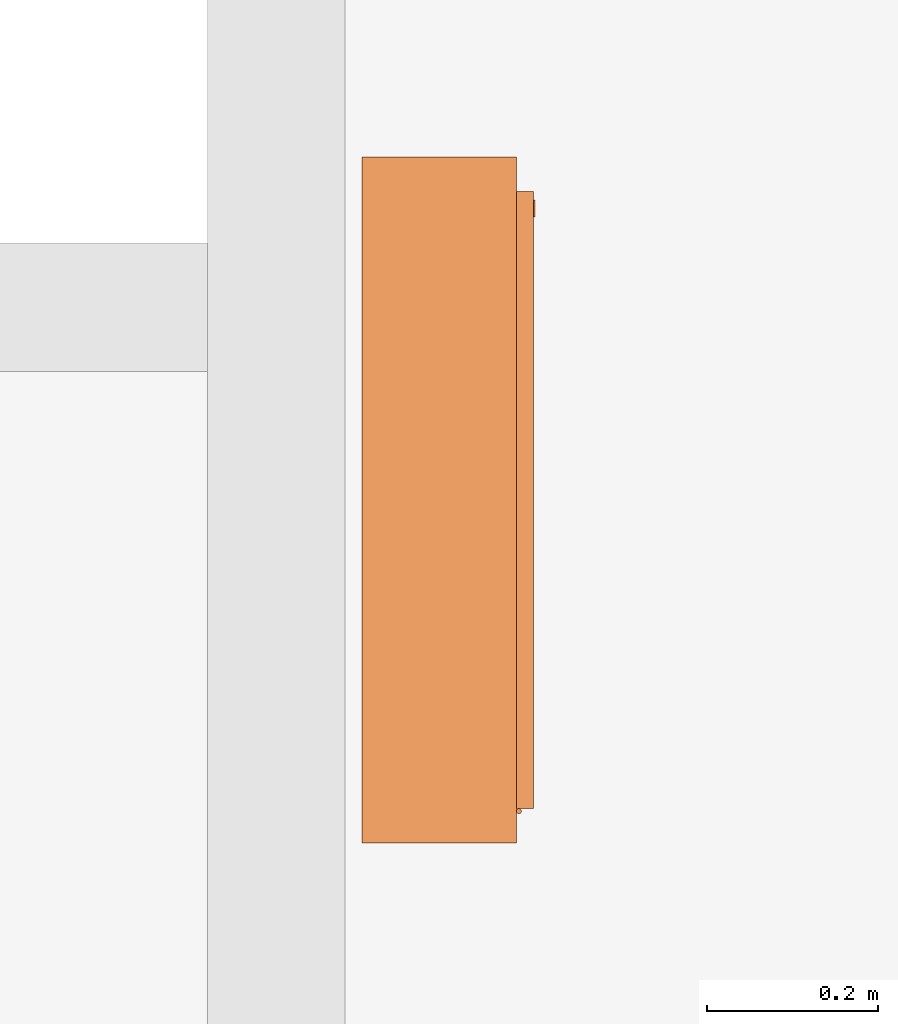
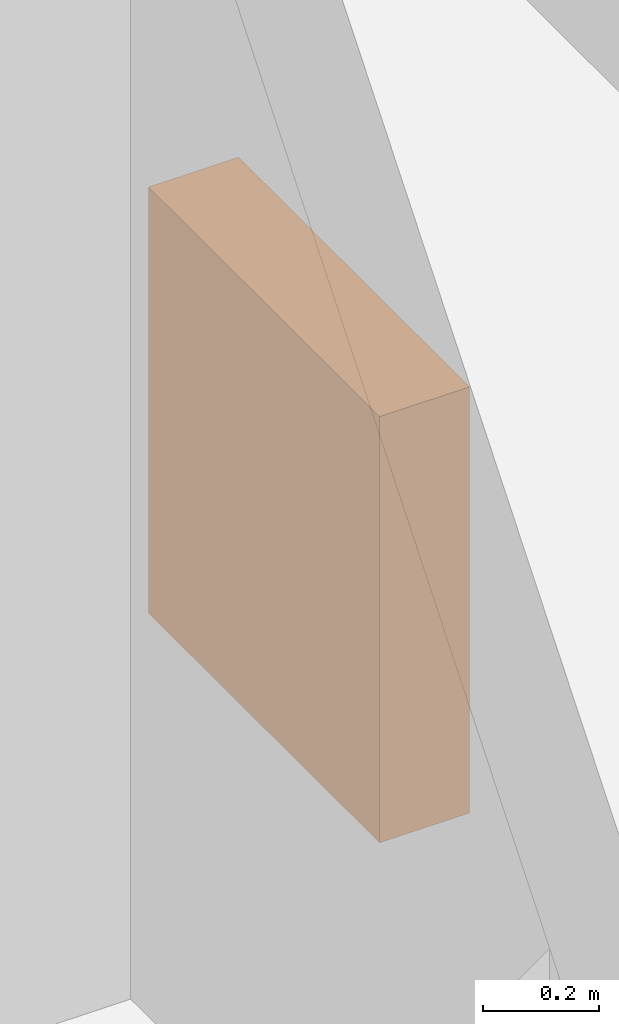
# One storey, part 14 of 61: 1 proxy.
"""IFC2X3 building model written with IfcOpenShell, lengths in millimetres."""

from ifc_helpers import new_model, entity, si_unit, converted_unit, derived_unit, money_unit, direction, frame, origin_with_axes, place, context, subcontext, project, spatial, faceted_brep, source, transform, mapped, type_object, element, save


model = new_model("IFC2X3")

# Units and contexts
model_context = context("Model", 3, precision=0.01, world=origin_with_axes(), true_north=direction((0.34421633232, 0.938890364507)))
body_context = subcontext(model_context, "Body", "Model", "MODEL_VIEW")
ifc_project = project(units=[si_unit("LENGTHUNIT", "METRE", prefix="MILLI"), si_unit("AREAUNIT", "SQUARE_METRE"), si_unit("VOLUMEUNIT", "CUBIC_METRE"), converted_unit("PLANEANGLEUNIT", "DEGREE", entity("IfcPlaneAngleMeasure", 0.0174532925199), si_unit("PLANEANGLEUNIT", "RADIAN"), dimensions=[0, 0, 0, 0, 0, 0, 0]), si_unit("SOLIDANGLEUNIT", "STERADIAN"), money_unit("USD"), converted_unit("TIMEUNIT", "Year", entity("IfcTimeMeasure", 31556926.0), si_unit("TIMEUNIT", "SECOND"), dimensions=[0, 0, 1, 0, 0, 0, 0]), si_unit("MASSUNIT", "GRAM", prefix="KILO"), si_unit("THERMODYNAMICTEMPERATUREUNIT", "DEGREE_CELSIUS"), si_unit("LUMINOUSINTENSITYUNIT", "LUMEN"), si_unit("ENERGYUNIT", "JOULE", prefix="MEGA"), derived_unit("THERMALCONDUCTANCEUNIT", [(si_unit("POWERUNIT", "WATT"), 1), (si_unit("LENGTHUNIT", "METRE"), -1), (si_unit("THERMODYNAMICTEMPERATUREUNIT", "KELVIN"), -1)]), derived_unit("SPECIFICHEATCAPACITYUNIT", [(si_unit("ENERGYUNIT", "JOULE"), 1), (si_unit("MASSUNIT", "GRAM", prefix="KILO"), -1), (si_unit("THERMODYNAMICTEMPERATUREUNIT", "KELVIN"), -1)]), derived_unit("MASSDENSITYUNIT", [(si_unit("MASSUNIT", "GRAM", prefix="KILO"), 1), (si_unit("VOLUMEUNIT", "CUBIC_METRE"), -1)])], contexts=[model_context])

# Site, building, storey
site_placement = place(None, origin_with_axes())
site = spatial("IfcSite", under=ifc_project, at=site_placement, Name="USTRONIE MORSKIE", CompositionType="ELEMENT")
building_placement = place(site_placement, origin_with_axes())
building = spatial("IfcBuilding", under=site, at=building_placement, Name="Budynek", CompositionType="ELEMENT")
storey_placement = place(building_placement, frame((0.0, 0.0, 13000.0), z_axis=(0.0, 0.0, 1.0), x_axis=(1.0, 0.0, 0.0)))
storey = spatial("IfcBuildingStorey", under=building, at=storey_placement, Name="PIĘTRO 4", CompositionType="ELEMENT", Elevation=13000.0)

# Proxy
building_element_proxy_type = type_object("IfcBuildingElementProxyType", Name="Skrzynka P-Poż 23", PredefinedType="NOTDEFINED")
shared_shape = source(origin_with_axes(), body_context, "Body", "Brep", [
    faceted_brep([(0.0, 40.0, 0.0), (800.0, 40.0, 0.0), (800.0, 20.0, 0.0), (0.0, 20.0, 0.0), (0.0, 40.0, 900.0), (800.0, 40.0, 900.0), (60.0, 40.0, 60.0), (740.0, 40.0, 60.0), (740.0, 40.0, 840.0), (60.0, 40.0, 840.0), (800.0, 20.0, 900.0), (0.0, 20.0, 900.0), (60.0, 20.0, 60.0), (60.0, 20.0, 840.0), (740.0, 20.0, 840.0), (740.0, 20.0, 60.0)], [[[0, 1, 2, 3]], [[0, 4, 5, 1], [6, 7, 8, 9]], [[1, 5, 10, 2]], [[3, 2, 10, 11], [12, 13, 14, 15]], [[4, 0, 3, 11]], [[5, 4, 11, 10]], [[7, 6, 12, 15]], [[8, 7, 15, 14]], [[9, 8, 14, 13]], [[6, 9, 13, 12]]]),
    faceted_brep([(40.0, 20.0, 40.0), (760.0, 20.0, 40.0), (760.0, 0.0, 40.0), (40.0, 0.0, 40.0), (40.0, 20.0, 860.0), (760.0, 20.0, 860.0), (80.0, 20.0, 80.0), (720.0, 20.0, 80.0), (720.0, 20.0, 820.0), (80.0, 20.0, 820.0), (760.0, 0.0, 860.0), (40.0, 0.0, 860.0), (80.0, 0.0, 80.0), (80.0, 0.0, 820.0), (720.0, 0.0, 820.0), (720.0, 0.0, 80.0)], [[[0, 1, 2, 3]], [[0, 4, 5, 1], [6, 7, 8, 9]], [[1, 5, 10, 2]], [[3, 2, 10, 11], [12, 13, 14, 15]], [[4, 0, 3, 11]], [[5, 4, 11, 10]], [[7, 6, 12, 15]], [[8, 7, 15, 14]], [[9, 8, 14, 13]], [[6, 9, 13, 12]]]),
    faceted_brep([(0.0, 180.0, 0.0), (800.0, 180.0, 0.0), (800.0, 40.0, 0.0), (0.0, 40.0, 0.0), (0.0, 180.0, 900.0), (800.0, 180.0, 900.0), (20.0, 180.0, 20.0), (780.0, 180.0, 20.0), (780.0, 180.0, 880.0), (20.0, 180.0, 880.0), (800.0, 40.0, 900.0), (0.0, 40.0, 900.0), (20.0, 40.0, 20.0), (20.0, 40.0, 880.0), (780.0, 40.0, 880.0), (780.0, 40.0, 20.0)], [[[0, 1, 2, 3]], [[0, 4, 5, 1], [6, 7, 8, 9]], [[1, 5, 10, 2]], [[3, 2, 10, 11], [12, 13, 14, 15]], [[4, 0, 3, 11]], [[5, 4, 11, 10]], [[7, 6, 12, 15]], [[8, 7, 15, 14]], [[9, 8, 14, 13]], [[6, 9, 13, 12]]]),
    faceted_brep([(0.0, 200.0, 0.0), (800.0, 200.0, 0.0), (800.0, 180.0, 0.0), (0.0, 180.0, 0.0), (0.0, 200.0, 900.0), (800.0, 200.0, 900.0), (800.0, 180.0, 900.0), (0.0, 180.0, 900.0)], [[[0, 1, 2, 3]], [[0, 4, 5, 1]], [[1, 5, 6, 2]], [[3, 2, 6, 7]], [[4, 0, 3, 7]], [[5, 4, 7, 6]]]),
    faceted_brep([(80.0, 15.0, 80.0), (720.0, 15.0, 80.0), (720.0, 5.0, 80.0), (80.0, 5.0, 80.0), (80.0, 15.0, 820.0), (720.0, 15.0, 820.0), (720.0, 5.0, 820.0), (80.0, 5.0, 820.0)], [[[0, 1, 2, 3]], [[0, 4, 5, 1]], [[1, 5, 6, 2]], [[3, 2, 6, 7]], [[4, 0, 3, 7]], [[5, 4, 7, 6]]]),
    faceted_brep([(749.659258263, 0.0, 447.411809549), (748.660254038, 0.0, 445.0), (747.071067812, 0.0, 442.928932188), (745.0, 0.0, 441.339745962), (742.588190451, 0.0, 440.340741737), (740.0, 0.0, 440.0), (737.411809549, 0.0, 440.340741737), (735.0, 0.0, 441.339745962), (732.928932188, 0.0, 442.928932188), (731.339745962, 0.0, 445.0), (730.340741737, 0.0, 447.411809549), (730.0, 0.0, 450.0), (730.340741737, 0.0, 452.588190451), (731.339745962, 0.0, 455.0), (732.928932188, 0.0, 457.071067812), (735.0, 0.0, 458.660254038), (737.411809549, 0.0, 459.659258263), (740.0, 0.0, 460.0), (742.588190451, 0.0, 459.659258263), (745.0, 0.0, 458.660254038), (747.071067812, 0.0, 457.071067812), (748.660254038, 0.0, 455.0), (749.659258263, 0.0, 452.588190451), (750.0, 0.0, 450.0), (749.659258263, -2.0, 447.411809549), (748.660254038, -2.0, 445.0), (747.071067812, -2.0, 442.928932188), (745.0, -2.0, 441.339745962), (742.588190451, -2.0, 440.340741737), (740.0, -2.0, 440.0), (737.411809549, -2.0, 440.340741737), (735.0, -2.0, 441.339745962), (732.928932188, -2.0, 442.928932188), (731.339745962, -2.0, 445.0), (730.340741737, -2.0, 447.411809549), (730.0, -2.0, 450.0), (730.340741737, -2.0, 452.588190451), (731.339745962, -2.0, 455.0), (732.928932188, -2.0, 457.071067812), (735.0, -2.0, 458.660254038), (737.411809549, -2.0, 459.659258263), (740.0, -2.0, 460.0), (742.588190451, -2.0, 459.659258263), (745.0, -2.0, 458.660254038), (747.071067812, -2.0, 457.071067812), (748.660254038, -2.0, 455.0), (749.659258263, -2.0, 452.588190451), (750.0, -2.0, 450.0)], [[[0, 1, 2, 3, 4, 5, 6, 7, 8, 9, 10, 11, 12, 13, 14, 15, 16, 17, 18, 19, 20, 21, 22, 23]], [[1, 0, 24, 25]], [[2, 1, 25, 26]], [[3, 2, 26, 27]], [[4, 3, 27, 28]], [[5, 4, 28, 29]], [[6, 5, 29, 30]], [[7, 6, 30, 31]], [[8, 7, 31, 32]], [[9, 8, 32, 33]], [[10, 9, 33, 34]], [[11, 10, 34, 35]], [[12, 11, 35, 36]], [[13, 12, 36, 37]], [[14, 13, 37, 38]], [[15, 14, 38, 39]], [[16, 15, 39, 40]], [[17, 16, 40, 41]], [[18, 17, 41, 42]], [[19, 18, 42, 43]], [[20, 19, 43, 44]], [[21, 20, 44, 45]], [[22, 21, 45, 46]], [[23, 22, 46, 47]], [[0, 23, 47, 24]], [[24, 47, 46, 45, 44, 43, 42, 41, 40, 39, 38, 37, 36, 35, 34, 33, 32, 31, 30, 29, 28, 27, 26, 25]]]),
    faceted_brep([(39.8977774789, 16.2235428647, 80.0), (39.5980762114, 15.5, 80.0), (39.1213203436, 14.8786796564, 80.0), (38.5, 14.4019237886, 80.0), (37.7764571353, 14.1022225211, 80.0), (37.0, 14.0, 80.0), (36.2235428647, 14.1022225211, 80.0), (35.5, 14.4019237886, 80.0), (34.8786796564, 14.8786796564, 80.0), (34.4019237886, 15.5, 80.0), (34.1022225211, 16.2235428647, 80.0), (34.0, 17.0, 80.0), (34.1022225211, 17.7764571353, 80.0), (34.4019237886, 18.5, 80.0), (34.8786796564, 19.1213203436, 80.0), (35.5, 19.5980762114, 80.0), (36.2235428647, 19.8977774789, 80.0), (37.0, 20.0, 80.0), (37.7764571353, 19.8977774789, 80.0), (38.5, 19.5980762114, 80.0), (39.1213203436, 19.1213203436, 80.0), (39.5980762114, 18.5, 80.0), (39.8977774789, 17.7764571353, 80.0), (40.0, 17.0, 80.0), (39.8977774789, 16.2235428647, 120.0), (39.5980762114, 15.5, 120.0), (39.1213203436, 14.8786796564, 120.0), (38.5, 14.4019237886, 120.0), (37.7764571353, 14.1022225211, 120.0), (37.0, 14.0, 120.0), (36.2235428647, 14.1022225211, 120.0), (35.5, 14.4019237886, 120.0), (34.8786796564, 14.8786796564, 120.0), (34.4019237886, 15.5, 120.0), (34.1022225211, 16.2235428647, 120.0), (34.0, 17.0, 120.0), (34.1022225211, 17.7764571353, 120.0), (34.4019237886, 18.5, 120.0), (34.8786796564, 19.1213203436, 120.0), (35.5, 19.5980762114, 120.0), (36.2235428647, 19.8977774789, 120.0), (37.0, 20.0, 120.0), (37.7764571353, 19.8977774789, 120.0), (38.5, 19.5980762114, 120.0), (39.1213203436, 19.1213203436, 120.0), (39.5980762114, 18.5, 120.0), (39.8977774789, 17.7764571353, 120.0), (40.0, 17.0, 120.0)], [[[0, 1, 2, 3, 4, 5, 6, 7, 8, 9, 10, 11, 12, 13, 14, 15, 16, 17, 18, 19, 20, 21, 22, 23]], [[1, 0, 24, 25]], [[2, 1, 25, 26]], [[3, 2, 26, 27]], [[4, 3, 27, 28]], [[5, 4, 28, 29]], [[6, 5, 29, 30]], [[7, 6, 30, 31]], [[8, 7, 31, 32]], [[9, 8, 32, 33]], [[10, 9, 33, 34]], [[11, 10, 34, 35]], [[12, 11, 35, 36]], [[13, 12, 36, 37]], [[14, 13, 37, 38]], [[15, 14, 38, 39]], [[16, 15, 39, 40]], [[17, 16, 40, 41]], [[18, 17, 41, 42]], [[19, 18, 42, 43]], [[20, 19, 43, 44]], [[21, 20, 44, 45]], [[22, 21, 45, 46]], [[23, 22, 46, 47]], [[0, 23, 47, 24]], [[24, 47, 46, 45, 44, 43, 42, 41, 40, 39, 38, 37, 36, 35, 34, 33, 32, 31, 30, 29, 28, 27, 26, 25]]]),
    faceted_brep([(39.8977774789, 16.2235428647, 780.0), (39.5980762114, 15.5, 780.0), (39.1213203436, 14.8786796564, 780.0), (38.5, 14.4019237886, 780.0), (37.7764571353, 14.1022225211, 780.0), (37.0, 14.0, 780.0), (36.2235428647, 14.1022225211, 780.0), (35.5, 14.4019237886, 780.0), (34.8786796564, 14.8786796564, 780.0), (34.4019237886, 15.5, 780.0), (34.1022225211, 16.2235428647, 780.0), (34.0, 17.0, 780.0), (34.1022225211, 17.7764571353, 780.0), (34.4019237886, 18.5, 780.0), (34.8786796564, 19.1213203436, 780.0), (35.5, 19.5980762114, 780.0), (36.2235428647, 19.8977774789, 780.0), (37.0, 20.0, 780.0), (37.7764571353, 19.8977774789, 780.0), (38.5, 19.5980762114, 780.0), (39.1213203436, 19.1213203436, 780.0), (39.5980762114, 18.5, 780.0), (39.8977774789, 17.7764571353, 780.0), (40.0, 17.0, 780.0), (39.8977774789, 16.2235428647, 820.0), (39.5980762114, 15.5, 820.0), (39.1213203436, 14.8786796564, 820.0), (38.5, 14.4019237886, 820.0), (37.7764571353, 14.1022225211, 820.0), (37.0, 14.0, 820.0), (36.2235428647, 14.1022225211, 820.0), (35.5, 14.4019237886, 820.0), (34.8786796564, 14.8786796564, 820.0), (34.4019237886, 15.5, 820.0), (34.1022225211, 16.2235428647, 820.0), (34.0, 17.0, 820.0), (34.1022225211, 17.7764571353, 820.0), (34.4019237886, 18.5, 820.0), (34.8786796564, 19.1213203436, 820.0), (35.5, 19.5980762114, 820.0), (36.2235428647, 19.8977774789, 820.0), (37.0, 20.0, 820.0), (37.7764571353, 19.8977774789, 820.0), (38.5, 19.5980762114, 820.0), (39.1213203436, 19.1213203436, 820.0), (39.5980762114, 18.5, 820.0), (39.8977774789, 17.7764571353, 820.0), (40.0, 17.0, 820.0)], [[[0, 1, 2, 3, 4, 5, 6, 7, 8, 9, 10, 11, 12, 13, 14, 15, 16, 17, 18, 19, 20, 21, 22, 23]], [[1, 0, 24, 25]], [[2, 1, 25, 26]], [[3, 2, 26, 27]], [[4, 3, 27, 28]], [[5, 4, 28, 29]], [[6, 5, 29, 30]], [[7, 6, 30, 31]], [[8, 7, 31, 32]], [[9, 8, 32, 33]], [[10, 9, 33, 34]], [[11, 10, 34, 35]], [[12, 11, 35, 36]], [[13, 12, 36, 37]], [[14, 13, 37, 38]], [[15, 14, 38, 39]], [[16, 15, 39, 40]], [[17, 16, 40, 41]], [[18, 17, 41, 42]], [[19, 18, 42, 43]], [[20, 19, 43, 44]], [[21, 20, 44, 45]], [[22, 21, 45, 46]], [[23, 22, 46, 47]], [[0, 23, 47, 24]], [[24, 47, 46, 45, 44, 43, 42, 41, 40, 39, 38, 37, 36, 35, 34, 33, 32, 31, 30, 29, 28, 27, 26, 25]]]),
])
proxy_placement = place(storey_placement, frame((357817.920919, 737501.1917, 600.0), z_axis=(0.0, 0.0, 1.0), x_axis=(0.0, 1.0, 0.0)))
element("IfcBuildingElementProxy", 1, at=proxy_placement, inside=storey, type_object=building_element_proxy_type, Name="OB3", context=body_context, shape_type="MappedRepresentation", body=[
    mapped(shared_shape, transform((0.0, 0.0, 0.0))),
])

save(model, "model.ifc")
